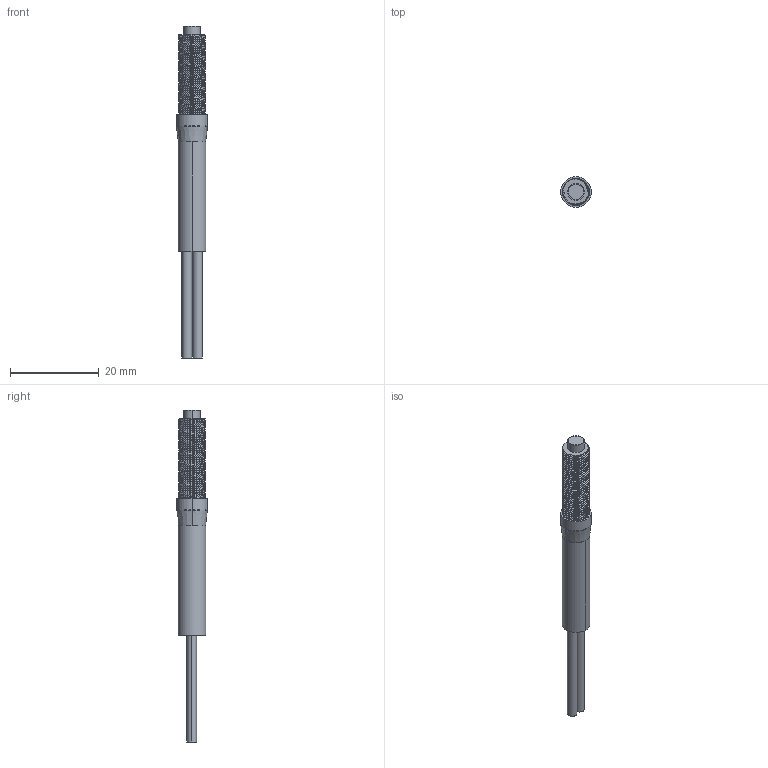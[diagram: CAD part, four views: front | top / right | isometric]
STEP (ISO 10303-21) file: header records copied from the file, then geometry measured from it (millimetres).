
FILE_DESCRIPTION((''),'2;1');
FILE_NAME('PD-62','2023-09-19T14:48:53',('gz'),(''),'CREO PARAMETRIC BY PTC INC, 2020154','CREO PARAMETRIC BY PTC INC, 2020154','');
FILE_SCHEMA(('AUTOMOTIVE_DESIGN { 1 0 10303 214 1 1 1 1 }'));
Length unit declared in the file: millimetre
Products named in the file (1): PD-62
Bounding box: 7 x 7 x 75 mm (x, y, z)
Volume: 1068.8 mm3; surface area: 2141.1 mm2
Topology: 3 solids, 3 shells, 127 faces, 331 edges, 216 vertices
Faces by surface type: cylinder 98, plane 13, torus 8, cone 6, bspline 2
Entity records: 15591 total; most frequent: CARTESIAN_POINT 11419, ORIENTED_EDGE 662, DIRECTION 489, PRESENTATION_STYLE_ASSIGNMENT 366, STYLED_ITEM 334, CURVE_STYLE 331, EDGE_CURVE 331, VERTEX_POINT 216
